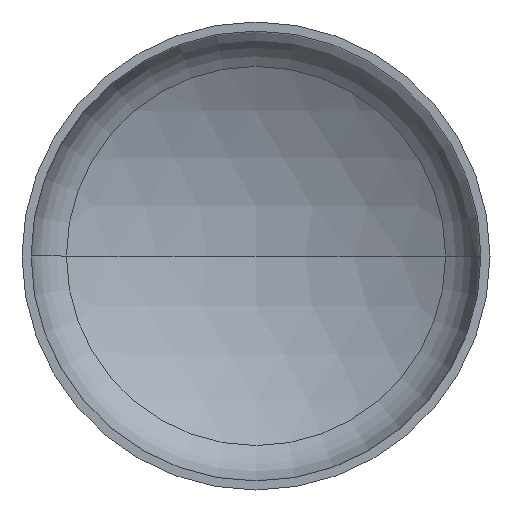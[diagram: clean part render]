
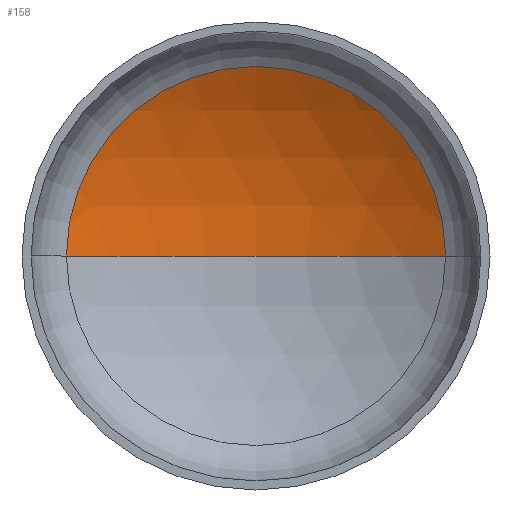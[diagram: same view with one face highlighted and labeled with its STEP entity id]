
A CAD part, front view. The second image highlights one B-rep face of the part: STEP entity #158.
In plain terms, the highlighted spherical face has radius 2560 mm.
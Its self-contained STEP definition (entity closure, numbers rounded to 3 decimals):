
#7 = VERTEX_POINT ( 'NONE', #372 ) ;
#8 = DIRECTION ( 'NONE',  ( 0., 0., -1. ) ) ;
#15 = AXIS2_PLACEMENT_3D ( 'NONE', #295, #205, #345 ) ;
#33 = DIRECTION ( 'NONE',  ( -1., 0., 0. ) ) ;
#35 = AXIS2_PLACEMENT_3D ( 'NONE', #251, #8, #33 ) ;
#43 = ORIENTED_EDGE ( 'NONE', *, *, #95, .T. ) ;
#46 = AXIS2_PLACEMENT_3D ( 'NONE', #323, #169, #350 ) ;
#54 = VERTEX_POINT ( 'NONE', #245 ) ;
#56 = AXIS2_PLACEMENT_3D ( 'NONE', #195, #197, #178 ) ;
#95 = EDGE_CURVE ( 'NONE', #54, #7, #137, .T. ) ;
#97 = EDGE_CURVE ( 'NONE', #329, #54, #405, .T. ) ;
#120 = ORIENTED_EDGE ( 'NONE', *, *, #354, .F. ) ;
#129 = FACE_OUTER_BOUND ( 'NONE', #185, .T. ) ;
#137 = CIRCLE ( 'NONE', #56, 1296.077 ) ;
#158 = ADVANCED_FACE ( 'NONE', ( #129 ), #265, .F. ) ;
#169 = DIRECTION ( 'NONE',  ( 0., 0., -1. ) ) ;
#170 = CIRCLE ( 'NONE', #15, 2560. ) ;
#177 = ORIENTED_EDGE ( 'NONE', *, *, #97, .T. ) ;
#178 = DIRECTION ( 'NONE',  ( 1., 0., 0. ) ) ;
#185 = EDGE_LOOP ( 'NONE', ( #120, #177, #43 ) ) ;
#195 = CARTESIAN_POINT ( 'NONE',  ( 0., 542.561, 0. ) ) ;
#197 = DIRECTION ( 'NONE',  ( 0., -1., 0. ) ) ;
#205 = DIRECTION ( 'NONE',  ( 0., 0., 1. ) ) ;
#245 = CARTESIAN_POINT ( 'NONE',  ( 1296.077, 542.561, 0. ) ) ;
#251 = CARTESIAN_POINT ( 'NONE',  ( 0., -1665.104, 0. ) ) ;
#265 = SPHERICAL_SURFACE ( 'NONE', #35, 2560. ) ;
#295 = CARTESIAN_POINT ( 'NONE',  ( 0., -1665.104, 0. ) ) ;
#323 = CARTESIAN_POINT ( 'NONE',  ( 0., -1665.104, 0. ) ) ;
#329 = VERTEX_POINT ( 'NONE', #351 ) ;
#345 = DIRECTION ( 'NONE',  ( 1., 0., 0. ) ) ;
#350 = DIRECTION ( 'NONE',  ( -1., 0., 0. ) ) ;
#351 = CARTESIAN_POINT ( 'NONE',  ( 0., 894.896, 0. ) ) ;
#354 = EDGE_CURVE ( 'NONE', #329, #7, #170, .T. ) ;
#372 = CARTESIAN_POINT ( 'NONE',  ( -1296.077, 542.561, 0. ) ) ;
#405 = CIRCLE ( 'NONE', #46, 2560. ) ;
